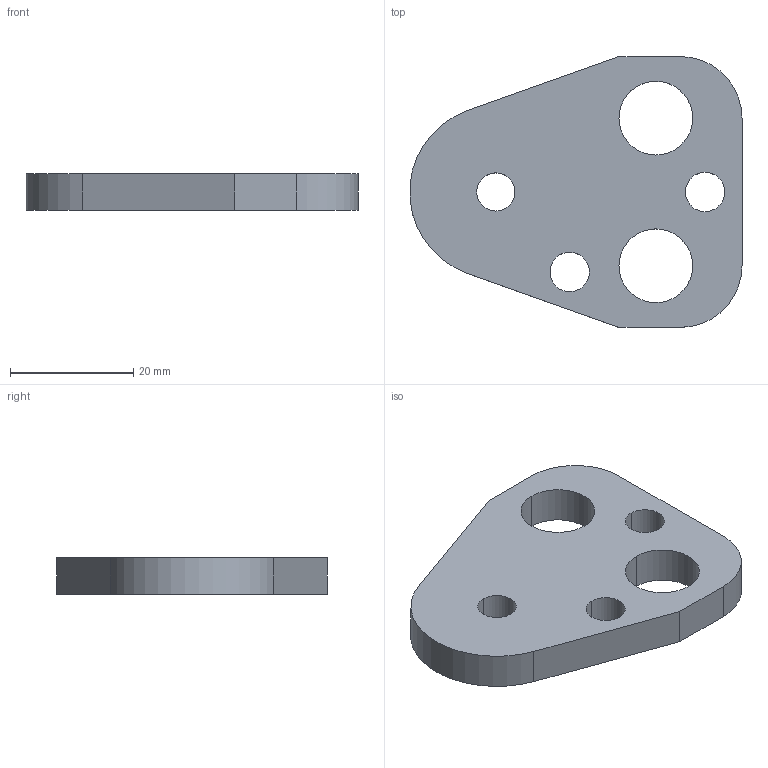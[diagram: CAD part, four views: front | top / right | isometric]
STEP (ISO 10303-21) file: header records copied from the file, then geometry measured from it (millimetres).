
FILE_DESCRIPTION(/* description */ (''),/* implementation_level */ '2;1');
FILE_NAME(/* name */ '3d_bpc16-6_03433_r00.stp',/* time_stamp */ '2011-01-10T14:17:10+09:00',/* author */ ('MISUMI'),/* organization */ (''),/* preprocessor_version */ 'ST-DEVELOPER v11',/* originating_system */ 'UGS - NX 5.0',/* authorisation */ '');
FILE_SCHEMA (('CONFIG_CONTROL_DESIGN'));
Length unit declared in the file: millimetre
Products named in the file (1): 3d_bpc16-6_03433_r00
Bounding box: 53.95 x 44 x 6 mm (x, y, z)
Volume: 9385.7 mm3; surface area: 4912.7 mm2
Topology: 1 solids, 1 shells, 20 faces, 54 edges, 36 vertices
Faces by surface type: cylinder 13, plane 7
Entity records: 750 total; most frequent: DIRECTION 122, CARTESIAN_POINT 111, ORIENTED_EDGE 108, EDGE_CURVE 54, AXIS2_PLACEMENT_3D 47, VERTEX_POINT 36, EDGE_LOOP 30, LINE 28
